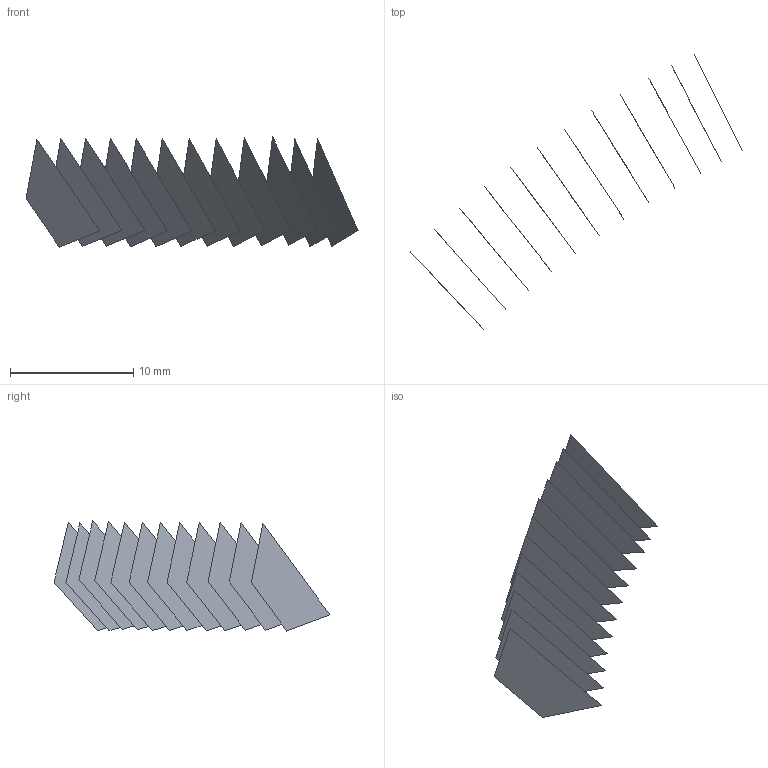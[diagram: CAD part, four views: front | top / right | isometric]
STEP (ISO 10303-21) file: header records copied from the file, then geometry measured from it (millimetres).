
FILE_DESCRIPTION(('FreeCAD Model'),'2;1');
FILE_NAME('Open CASCADE Shape Model','2022-05-21T09:28:01',('FreeCAD'),( 'FreeCAD'),'Open CASCADE STEP processor 7.5','FreeCAD','Unknown');
FILE_SCHEMA(('AUTOMOTIVE_DESIGN { 1 0 10303 214 1 1 1 1 }'));
Length unit declared in the file: millimetre
Products named in the file (13): Open CASCADE STEP translator 7.5 4; Open CASCADE STEP translator 7.5 4.1; Open CASCADE STEP translator 7.5 4.2; Open CASCADE STEP translator 7.5 4.3; Open CASCADE STEP translator 7.5 4.4; Open CASCADE STEP translator 7.5 4.5; Open CASCADE STEP translator 7.5 4.6; Open CASCADE STEP translator 7.5 4.7; Open CASCADE STEP translator 7.5 4.8; Open CASCADE STEP translator 7.5 4.9; Open CASCADE STEP translator 7.5 4.10; Open CASCADE STEP translator 7.5 4.11; Open CASCADE STEP translator 7.5 4.12
Assembly tree (12 placements, depth 2):
  Open CASCADE STEP translator 7.5 4
    Open CASCADE STEP translator 7.5 4.1
    Open CASCADE STEP translator 7.5 4.2
    Open CASCADE STEP translator 7.5 4.3
    Open CASCADE STEP translator 7.5 4.4
    Open CASCADE STEP translator 7.5 4.5
    Open CASCADE STEP translator 7.5 4.6
    Open CASCADE STEP translator 7.5 4.7
    Open CASCADE STEP translator 7.5 4.8
    Open CASCADE STEP translator 7.5 4.9
    Open CASCADE STEP translator 7.5 4.10
    Open CASCADE STEP translator 7.5 4.11
    Open CASCADE STEP translator 7.5 4.12
Bounding box: 26.94 x 22.39 x 8.94 mm (x, y, z)
Surface area: 418 mm2 (no closed solid volume)
Topology: 0 solids, 12 shells, 12 faces, 68 edges, 68 vertices
Faces by surface type: bspline 12
Entity records: 1236 total; most frequent: CARTESIAN_POINT 401, B_SPLINE_CURVE_WITH_KNOTS 136, ORIENTED_EDGE 68, EDGE_CURVE 68, VERTEX_POINT 68, SURFACE_CURVE 68, PCURVE 68, DEFINITIONAL_REPRESENTATION 68
